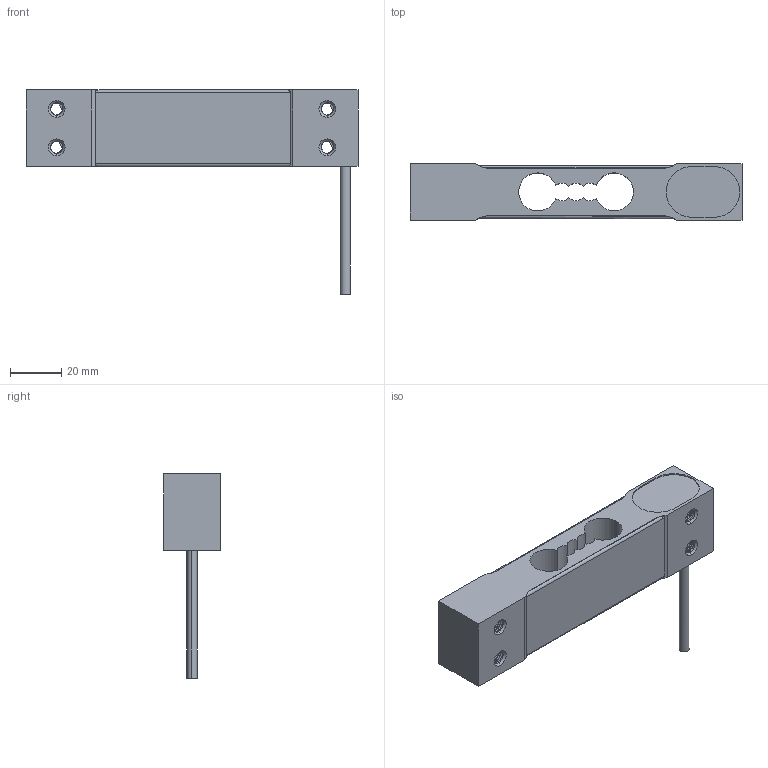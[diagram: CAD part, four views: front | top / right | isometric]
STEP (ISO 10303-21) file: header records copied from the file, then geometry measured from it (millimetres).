
FILE_DESCRIPTION (( 'STEP AP203' ), '1' );
FILE_NAME ('LCE10.STEP', '2024-11-28T08:17:05', ( '' ), ( '' ), 'SwSTEP 2.0', 'SolidWorks 2019', '' );
FILE_SCHEMA (( 'CONFIG_CONTROL_DESIGN' ));
Length unit declared in the file: millimetre
Products named in the file (1): LCE10
Bounding box: 130 x 22 x 80 mm (x, y, z)
Volume: 67913.8 mm3; surface area: 29334.2 mm2
Topology: 4 solids, 4 shells, 257 faces, 728 edges, 480 vertices
Faces by surface type: cylinder 194, plane 35, cone 16, bspline 12
Entity records: 24331 total; most frequent: CARTESIAN_POINT 18632, ORIENTED_EDGE 1456, DIRECTION 924, EDGE_CURVE 728, VERTEX_POINT 480, AXIS2_PLACEMENT_3D 322, VECTOR 280, LINE 280
